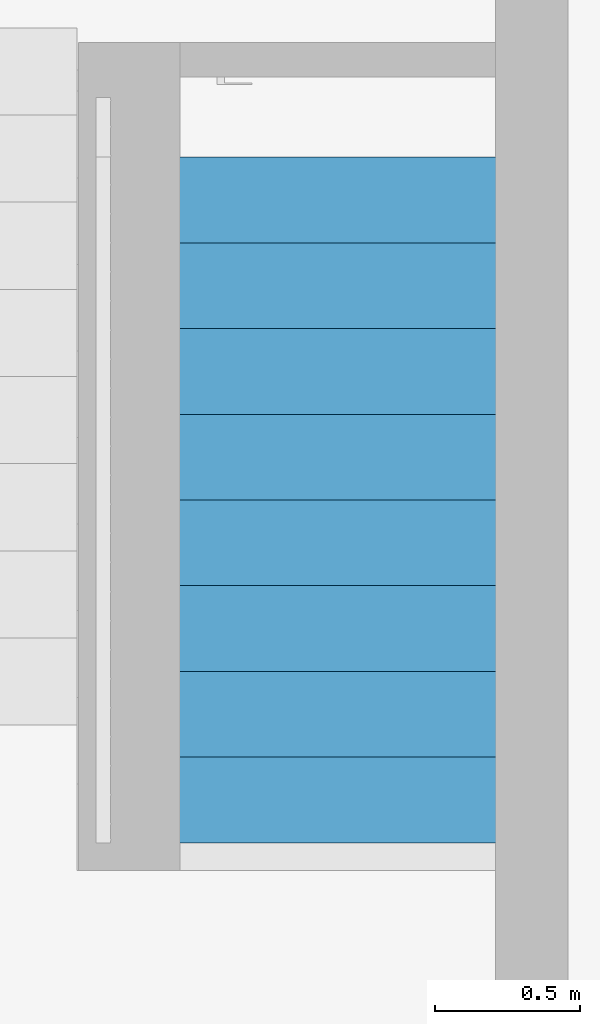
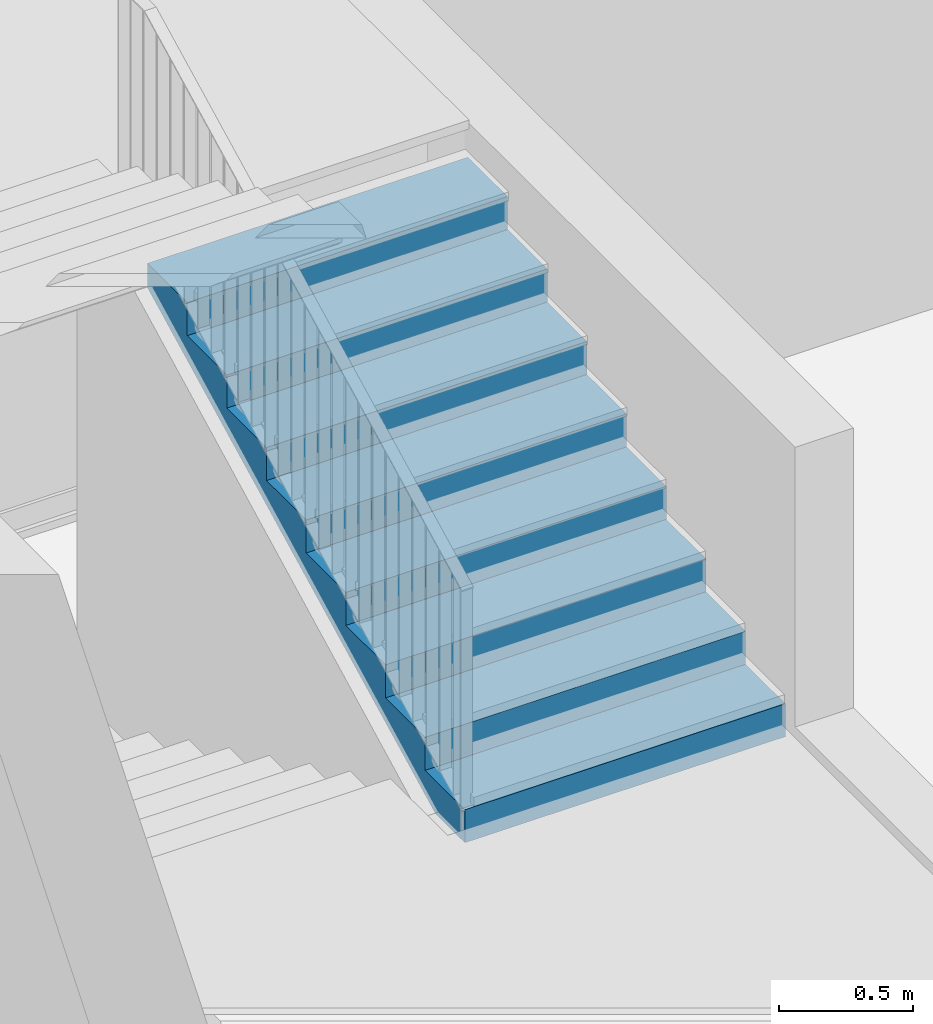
# One storey, part 17 of 23: 1 stair flight, 1 element without a shape of its own.
"""IFC2X3 building model written with IfcOpenShell, lengths in millimetres."""

from ifc_helpers import new_model, entity, si_unit, converted_unit, derived_unit, direction, frame, origin, place, context, subcontext, project, spatial, faceted_brep, material, type_object, element, aggregate, save


model = new_model("IFC2X3")

# Units and contexts
model_context = context("Model", 3, precision=0.01, world=origin(), true_north=direction((6.12303176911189e-17, 1.0)))
body_context = subcontext(model_context, "Body", "Model", "MODEL_VIEW")
ifc_project = project(units=[si_unit("LENGTHUNIT", "METRE", prefix="MILLI"), si_unit("AREAUNIT", "SQUARE_METRE"), si_unit("VOLUMEUNIT", "CUBIC_METRE"), converted_unit("PLANEANGLEUNIT", "DEGREE", entity("IfcRatioMeasure", 0.0174532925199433), si_unit("PLANEANGLEUNIT", "RADIAN"), dimensions=[0, 0, 0, 0, 0, 0, 0]), si_unit("MASSUNIT", "GRAM", prefix="KILO"), derived_unit("MASSDENSITYUNIT", [(si_unit("MASSUNIT", "GRAM", prefix="KILO"), 1), (si_unit("LENGTHUNIT", "METRE"), -3)]), si_unit("TIMEUNIT", "SECOND"), si_unit("FREQUENCYUNIT", "HERTZ"), si_unit("THERMODYNAMICTEMPERATUREUNIT", "DEGREE_CELSIUS"), derived_unit("THERMALTRANSMITTANCEUNIT", [(si_unit("MASSUNIT", "GRAM", prefix="KILO"), 1), (si_unit("THERMODYNAMICTEMPERATUREUNIT", "KELVIN"), -1), (si_unit("TIMEUNIT", "SECOND"), -3)]), derived_unit("VOLUMETRICFLOWRATEUNIT", [(si_unit("LENGTHUNIT", "METRE"), 3), (si_unit("TIMEUNIT", "SECOND"), -1)]), si_unit("ELECTRICCURRENTUNIT", "AMPERE"), si_unit("ELECTRICVOLTAGEUNIT", "VOLT"), si_unit("POWERUNIT", "WATT"), si_unit("FORCEUNIT", "NEWTON", prefix="KILO"), si_unit("ILLUMINANCEUNIT", "LUX"), si_unit("LUMINOUSFLUXUNIT", "LUMEN"), si_unit("LUMINOUSINTENSITYUNIT", "CANDELA"), derived_unit("USERDEFINED", [(si_unit("MASSUNIT", "GRAM", prefix="KILO"), -1), (si_unit("LENGTHUNIT", "METRE"), -2), (si_unit("TIMEUNIT", "SECOND"), 3), (si_unit("LUMINOUSFLUXUNIT", "LUMEN"), 1)]), derived_unit("LINEARVELOCITYUNIT", [(si_unit("LENGTHUNIT", "METRE"), 1), (si_unit("TIMEUNIT", "SECOND"), -1)]), si_unit("PRESSUREUNIT", "PASCAL"), derived_unit("USERDEFINED", [(si_unit("LENGTHUNIT", "METRE"), -2), (si_unit("MASSUNIT", "GRAM", prefix="KILO"), 1), (si_unit("TIMEUNIT", "SECOND"), -2)]), derived_unit("LINEARFORCEUNIT", [(si_unit("MASSUNIT", "GRAM", prefix="KILO"), 1), (si_unit("LENGTHUNIT", "METRE"), 1), (si_unit("TIMEUNIT", "SECOND"), -2), (si_unit("LENGTHUNIT", "METRE"), -1)]), derived_unit("PLANARFORCEUNIT", [(si_unit("MASSUNIT", "GRAM", prefix="KILO"), 1), (si_unit("LENGTHUNIT", "METRE"), 1), (si_unit("TIMEUNIT", "SECOND"), -2), (si_unit("LENGTHUNIT", "METRE"), -2)])], contexts=[model_context])

# Site, building, storey
site_placement = place(None, origin())
site = spatial("IfcSite", under=ifc_project, at=site_placement, Name="Default", CompositionType="ELEMENT")
building_placement = place(site_placement, origin())
building = spatial("IfcBuilding", under=site, at=building_placement, Name="SMA ARH", CompositionType="ELEMENT")
storey_placement = place(building_placement, frame((0.0, 0.0, -2800.0)))
storey = spatial("IfcBuildingStorey", under=building, at=storey_placement, Name="0 Sokkel", CompositionType="ELEMENT", Elevation=-2800.0)

# Stair, stair flight
stair_placement = place(storey_placement, origin())
stair = element("IfcStair", 1, at=stair_placement, inside=storey, Name="Cast-In-Place Stair:Stair", ObjectType="Cast-In-Place Stair:Cast-In-Place Stair", ShapeType="STRAIGHT_RUN_STAIR")
ifc_material = material(Name="EST. Betoon. Armeeritud. Monteeritav(1)")
stair_flight_type = type_object("IfcStairFlightType", Name="Monolithic Run:Monolithic Run", PredefinedType="STRAIGHT")
stair_flight_placement = place(stair_placement, frame((32254.2609362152, 2085.0, 0.0)))
stair_flight = element("IfcStairFlight", 2, at=stair_flight_placement, type_object=stair_flight_type, material=ifc_material, Name="Cast-In-Place Stair:Stair:914901 Run 1", ObjectType="Monolithic Run:Monolithic Run", NumberOfRiser=9, NumberOfTreads=8, RiserHeight=0.492125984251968, TreadLength=0.967847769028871, context=body_context, shape_type="Brep", body=[
    faceted_brep([(0.0, 295.0, 1570.0), (0.0, 0.0, 1570.0), (1375.73906378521, 0.0, 1570.0), (1375.73906378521, 295.0, 1570.0), (0.0, 295.0, 1457.81504580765), (0.0, 220.630409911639, 1420.0), (0.0, 0.0, 1420.0), (1375.73906378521, 0.0, 1420.0), (1375.73906378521, 220.63040991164, 1420.0), (1375.73906378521, 295.0, 1457.81504580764), (0.0, 590.0, 1720.0), (0.0, 295.0, 1720.0), (1375.73906378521, 295.0, 1720.0), (1375.73906378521, 590.0, 1720.0), (0.0, 590.0, 1607.81504580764), (1375.73906378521, 590.0, 1607.81504580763), (0.0, 885.0, 1870.0), (0.0, 590.0, 1870.0), (1375.73906378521, 590.0, 1870.0), (1375.73906378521, 885.0, 1870.0), (0.0, 885.0, 1757.81504580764), (1375.73906378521, 885.0, 1757.81504580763), (0.0, 1180.0, 2020.0), (0.0, 885.0, 2020.0), (1375.73906378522, 885.0, 2020.0), (1375.73906378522, 1180.0, 2020.0), (0.0, 1180.0, 1907.81504580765), (1375.73906378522, 1180.0, 1907.81504580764), (0.0, 1475.0, 2170.0), (0.0, 1180.0, 2170.0), (1375.73906378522, 1180.0, 2170.0), (1375.73906378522, 1475.0, 2170.0), (0.0, 1475.0, 2057.81504580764), (1375.73906378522, 1475.0, 2057.81504580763), (0.0, 1770.0, 2320.0), (0.0, 1475.0, 2320.0), (1375.73906378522, 1475.0, 2320.0), (1375.73906378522, 1770.0, 2320.0), (0.0, 1770.0, 2207.81504580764), (1375.73906378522, 1770.0, 2207.81504580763), (0.0, 2065.0, 2470.0), (0.0, 1770.0, 2470.0), (1375.73906378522, 1770.0, 2470.0), (1375.73906378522, 2065.0, 2470.0), (0.0, 2065.0, 2357.81504580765), (1375.73906378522, 2065.0, 2357.81504580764), (0.0, 2360.0, 2620.0), (0.0, 2065.0, 2620.0), (1375.73906378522, 2065.0, 2620.0), (1375.73906378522, 2360.0, 2620.0), (0.0, 2360.0, 2507.81504580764), (1375.73906378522, 2360.0, 2507.81504580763)], [[[0, 1, 2, 3]], [[1, 0, 4, 5, 6]], [[2, 1, 6, 7]], [[3, 2, 7, 8, 9]], [[10, 11, 12, 13]], [[11, 10, 14, 4, 0]], [[0, 3, 12, 11]], [[13, 12, 3, 9, 15]], [[16, 17, 18, 19]], [[17, 16, 20, 14, 10]], [[10, 13, 18, 17]], [[19, 18, 13, 15, 21]], [[22, 23, 24, 25]], [[23, 22, 26, 20, 16]], [[16, 19, 24, 23]], [[25, 24, 19, 21, 27]], [[28, 29, 30, 31]], [[29, 28, 32, 26, 22]], [[22, 25, 30, 29]], [[31, 30, 25, 27, 33]], [[34, 35, 36, 37]], [[35, 34, 38, 32, 28]], [[28, 31, 36, 35]], [[37, 36, 31, 33, 39]], [[40, 41, 42, 43]], [[41, 40, 44, 38, 34]], [[34, 37, 42, 41]], [[43, 42, 37, 39, 45]], [[46, 47, 48, 49]], [[47, 46, 50, 44, 40]], [[40, 43, 48, 47]], [[49, 48, 43, 45, 51]], [[46, 49, 51, 50]], [[7, 6, 5, 8]], [[8, 5, 4, 14, 20, 26, 32, 38, 44, 50, 51, 45, 39, 33, 27, 21, 15, 9]]]),
])
aggregate(stair, [stair_flight])

save(model, "model.ifc")
